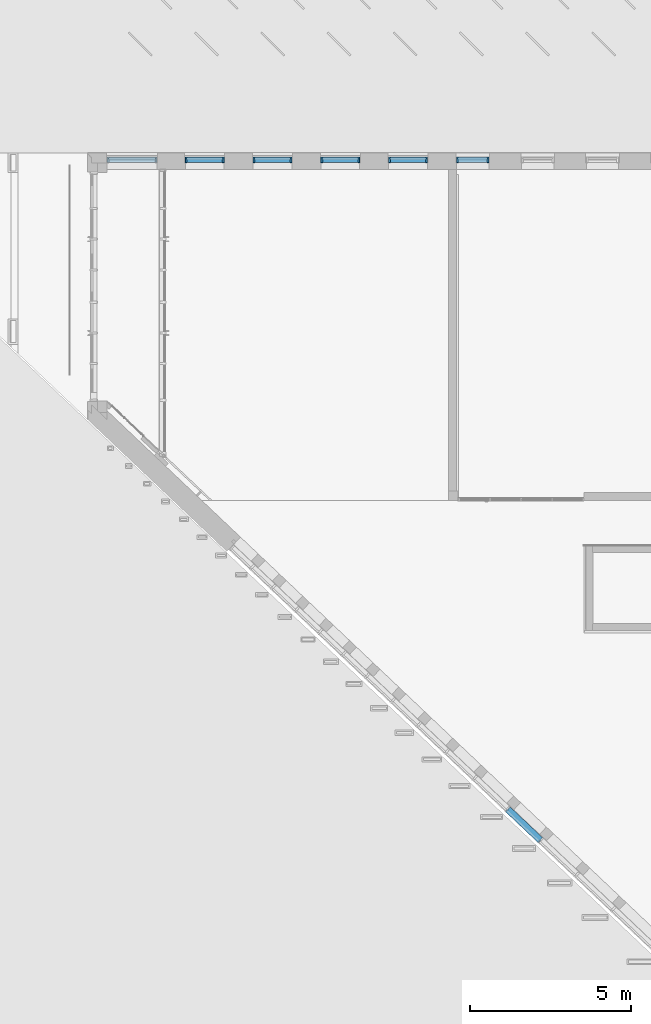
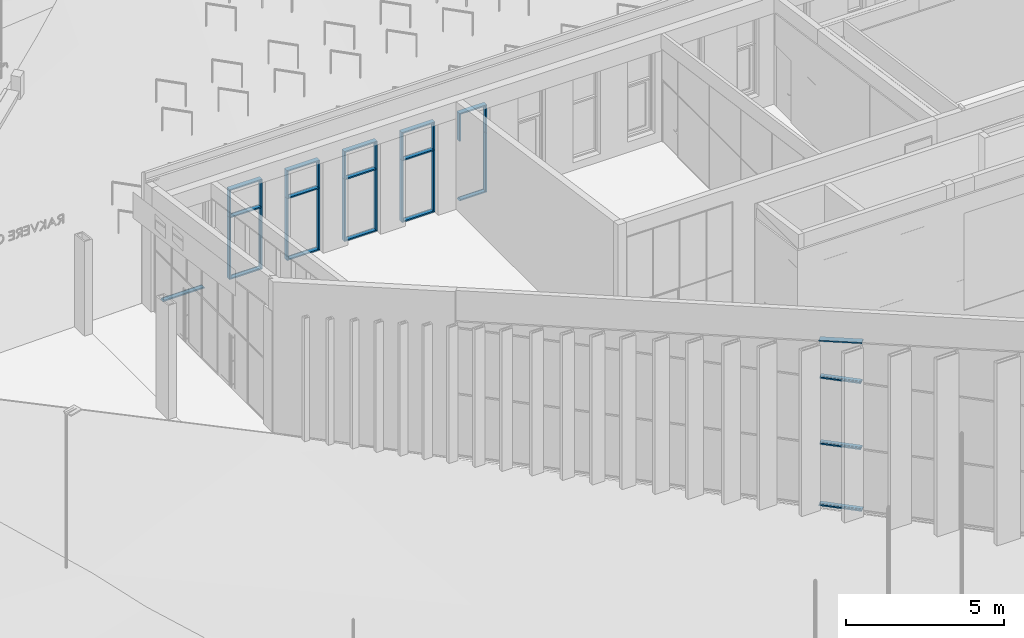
# One storey, part 13 of 246: 38 members, 7 elements without a shape of their own.
"""IFC2X3 building model written with IfcOpenShell, lengths in millimetres."""

import ifcopenshell
import ifcopenshell.guid

model = None  # the IFC model being written
_history = None  # IfcOwnerHistory: only IFC2X3 demands one
_inside = {}  # id of a spatial element -> (the spatial element, [elements in it])
_under = {}  # id of a project, library or spatial element -> (it, [spatial elements below it])
_declared = {}  # id of a project -> (the project, [libraries it declares])
_typed = {}  # id of a type object -> (the type object, [elements of that type])
_made_of = {}  # id of a material, layer set ... -> (it, [elements and type objects made of it])


def new_model(schema):
    """Start an empty IFC model of exactly this schema.

    Asked for "IFC4X3", IfcOpenShell would pick the latest addendum, in which some entities
    have other attributes; the version numbers below select the first issue.
    IFC2X3 requires an IfcOwnerHistory on every rooted entity: one is made here for all.
    """
    global model, _history
    if schema == "IFC4X3":
        model = ifcopenshell.file(schema_version=(4, 3, 0, 0))
    else:
        model = ifcopenshell.file(schema=schema)
    _inside.clear()
    _under.clear()
    _declared.clear()
    _typed.clear()
    _made_of.clear()
    _history = None
    if model.schema == "IFC2X3":
        org = make("IfcOrganization", Name="unknown")
        user = make(
            "IfcPersonAndOrganization",
            ThePerson=make("IfcPerson", FamilyName="unknown"),
            TheOrganization=org,
        )
        app = make(
            "IfcApplication",
            ApplicationDeveloper=org,
            Version="unknown",
            ApplicationFullName="unknown",
            ApplicationIdentifier="unknown",
        )
        _history = make(
            "IfcOwnerHistory",
            OwningUser=user,
            OwningApplication=app,
            ChangeAction="ADDED",
            CreationDate=0,
        )
    return model


def make(cls, **values):
    """One entity of the class cls with the attributes given. An attribute that is None is left unset."""
    return model.create_entity(
        cls, **{name: value for name, value in values.items() if value is not None}
    )


def entity(cls, *values):
    """Any entity or typed value of the class cls, its attributes in the order of the schema. None: left unset."""
    e = model.create_entity(cls)
    for i, value in enumerate(values):
        if value is not None:
            e[i] = value
    return e


def rooted(cls, **values):
    """An entity with a GlobalId (a new one), such as an element, a storey or a relation."""
    return make(cls, GlobalId=ifcopenshell.guid.new(), OwnerHistory=_history, **values)


def si_unit(unit_type, name, prefix=None):
    """IfcSIUnit, for example si_unit("LENGTHUNIT", "METRE", prefix="MILLI")."""
    return make("IfcSIUnit", UnitType=unit_type, Prefix=prefix, Name=name)


def converted_unit(unit_type, name, factor, base, dimensions=None, offset=None):
    """IfcConversionBasedUnit, such as the inch: factor (a typed value) times the base unit."""
    return make(
        "IfcConversionBasedUnit"
        if offset is None
        else "IfcConversionBasedUnitWithOffset",
        ConversionOffset=offset,
        Dimensions=None
        if dimensions is None
        else entity("IfcDimensionalExponents", *dimensions),
        UnitType=unit_type,
        Name=name,
        ConversionFactor=make(
            "IfcMeasureWithUnit", ValueComponent=factor, UnitComponent=base
        ),
    )


def derived_unit(unit_type, elements):
    """IfcDerivedUnit: a product of units, each with its exponent."""
    return make(
        "IfcDerivedUnit",
        Elements=[
            make("IfcDerivedUnitElement", Unit=unit, Exponent=power)
            for unit, power in elements
        ],
        UnitType=unit_type,
    )


def money_unit(currency):
    """IfcMonetaryUnit."""
    return make("IfcMonetaryUnit", Currency=currency)


def assignment(units):
    """IfcUnitAssignment: the units of a project."""
    return None if units is None else make("IfcUnitAssignment", Units=units)


def point(xyz):
    """IfcCartesianPoint."""
    return None if xyz is None else make("IfcCartesianPoint", Coordinates=xyz)


def direction(xyz):
    """IfcDirection."""
    return None if xyz is None else make("IfcDirection", DirectionRatios=xyz)


def frame(location, z_axis=None, x_axis=None):
    """IfcAxis2Placement3D, a coordinate frame: its origin and axes. An axis left out is left unset."""
    return make(
        "IfcAxis2Placement3D",
        Location=point(location),
        Axis=direction(z_axis),
        RefDirection=direction(x_axis),
    )


def origin_with_axes():
    """The frame at (0, 0, 0) with the z axis (0, 0, 1) and the x axis (1, 0, 0) written out."""
    return frame((0.0, 0.0, 0.0), z_axis=(0.0, 0.0, 1.0), x_axis=(1.0, 0.0, 0.0))


def place(relative_to, where):
    """IfcLocalPlacement: puts the frame where relative to a parent placement (None: the world)."""
    return make(
        "IfcLocalPlacement", PlacementRelTo=relative_to, RelativePlacement=where
    )


def context(
    kind, dimensions, precision=None, world=None, true_north=None, identifier=None
):
    """IfcGeometricRepresentationContext, for example the 3D "Model" context."""
    return make(
        "IfcGeometricRepresentationContext",
        ContextIdentifier=identifier,
        ContextType=kind,
        CoordinateSpaceDimension=dimensions,
        Precision=precision,
        WorldCoordinateSystem=world,
        TrueNorth=true_north,
    )


def subcontext(parent, identifier, kind, view, scale=None):
    """IfcGeometricRepresentationSubContext, for example "Body" below "Model"."""
    return make(
        "IfcGeometricRepresentationSubContext",
        ContextIdentifier=identifier,
        ContextType=kind,
        ParentContext=parent,
        TargetScale=scale,
        TargetView=view,
    )


def project(units=None, contexts=None):
    """IfcProject with its units and contexts."""
    return rooted(
        "IfcProject",
        Name="project",
        RepresentationContexts=contexts,
        UnitsInContext=assignment(units),
    )


def spatial(cls, under=None, at=None, **own):
    """A site, building, storey or space (cls), placed at a placement, below another one or the project."""
    s = rooted(cls, ObjectPlacement=at, **own)
    if under is not None:
        _under.setdefault(under.id(), (under, []))[1].append(s)
    return s


def faces_of(points, faces, orient=None, outer=None):
    """IfcFace entities. A face is a list of loops; a loop is a list of indices into points, from 0.

    orient and outer hold one flag for each loop. By default every Orientation is true, the
    first loop of a face is its IfcFaceOuterBound and the others are IfcFaceBound.
    """
    made = []
    for i, loops in enumerate(faces):
        bounds = []
        for j, loop in enumerate(loops):
            is_outer = j == 0 if outer is None else outer[i][j]
            bounds.append(
                make(
                    "IfcFaceOuterBound" if is_outer else "IfcFaceBound",
                    Bound=make("IfcPolyLoop", Polygon=[points[k] for k in loop]),
                    Orientation=True if orient is None else orient[i][j],
                )
            )
        made.append(make("IfcFace", Bounds=bounds))
    return made


def faceted_brep(points, faces, orient=None, outer=None, voids=None):
    """IfcFacetedBrep: a solid bounded by flat faces; with voids (closed shells), ...WithVoids."""
    shared = [point(p) for p in points]
    hull = make("IfcClosedShell", CfsFaces=faces_of(shared, faces, orient, outer))
    if voids is None:
        return make("IfcFacetedBrep", Outer=hull)
    return make(
        "IfcFacetedBrepWithVoids",
        Outer=hull,
        Voids=[
            make(cls, CfsFaces=faces_of(shared, fs, o, b)) for cls, fs, o, b in voids
        ],
    )


def shape(context_of_items, identifier, shape_type, items):
    """IfcShapeRepresentation: the items that make up one representation, for example the "Body"."""
    return make(
        "IfcShapeRepresentation",
        ContextOfItems=context_of_items,
        RepresentationIdentifier=identifier,
        RepresentationType=shape_type,
        Items=items,
    )


def source(mapping_origin, context_of_items, identifier, shape_type, items):
    """IfcRepresentationMap: a shape defined once, which mapped items show again and again."""
    return make(
        "IfcRepresentationMap",
        MappingOrigin=mapping_origin,
        MappedRepresentation=shape(context_of_items, identifier, shape_type, items),
    )


def transform(
    local_origin,
    x_axis=None,
    y_axis=None,
    z_axis=None,
    scale=None,
    scale2=None,
    scale3=None,
    uniform=True,
):
    """IfcCartesianTransformationOperator3D, or its non-uniform kind. x_axis, y_axis, z_axis: its Axis1, 2, 3."""
    if uniform:
        return make(
            "IfcCartesianTransformationOperator3D",
            Axis1=direction(x_axis),
            Axis2=direction(y_axis),
            LocalOrigin=point(local_origin),
            Scale=scale,
            Axis3=direction(z_axis),
        )
    return make(
        "IfcCartesianTransformationOperator3DnonUniform",
        Axis1=direction(x_axis),
        Axis2=direction(y_axis),
        LocalOrigin=point(local_origin),
        Scale=scale,
        Axis3=direction(z_axis),
        Scale2=scale2,
        Scale3=scale3,
    )


def mapped(mapping_source, mapping_target):
    """IfcMappedItem: shows the shape of a source again, moved by a transform."""
    return make(
        "IfcMappedItem", MappingSource=mapping_source, MappingTarget=mapping_target
    )


def material(Name=None, Category=None):
    """IfcMaterial."""
    return make("IfcMaterial", Name=Name, Category=Category)


def made_of(thing, what):
    """Note that an element or type object is made of a material, layer set ...; save() writes the relation."""
    if what is not None:
        _made_of.setdefault(what.id(), (what, []))[1].append(thing)
    return thing


def type_object(cls, material=None, **own):
    """A type object (cls), such as IfcWallType, which elements share."""
    return made_of(rooted(cls, **own), material)


def element(
    cls,
    number,
    at=None,
    inside=None,
    cuts=None,
    type_object=None,
    material=None,
    context=None,
    identifier="Body",
    shape_type=None,
    held_by="IfcProductDefinitionShape",
    body=None,
    shapes=None,
    **own,
):
    """One element of the class cls, such as IfcWall. Its Tag is "e" and its number.

    at: its placement. inside: the storey or other place that contains it. cuts: it is an
    opening in that element (IfcRelVoidsElement). A single representation is given by context,
    identifier, shape_type and body (its items); several are given by shapes. held_by: the class
    of the entity that holds the representations. save() writes the other relations.
    """
    e = rooted(cls, Tag="e%d" % number, ObjectPlacement=at, **own)
    if body is not None:
        shapes = [shape(context, identifier, shape_type, body)]
    if shapes is not None:
        e.Representation = make(held_by, Representations=shapes)
    if inside is not None:
        _inside.setdefault(inside.id(), (inside, []))[1].append(e)
    if cuts is not None:
        rooted(
            "IfcRelVoidsElement", RelatingBuildingElement=cuts, RelatedOpeningElement=e
        )
    if type_object is not None:
        _typed.setdefault(type_object.id(), (type_object, []))[1].append(e)
    return made_of(e, material)


def aggregate(whole, parts):
    """IfcRelAggregates: a whole, such as a stair, and the parts it consists of."""
    return rooted("IfcRelAggregates", RelatingObject=whole, RelatedObjects=parts)


def save(model, path):
    """Write the relations noted so far, then the file.

    IfcRelAggregates (storeys below a building ...), IfcRelContainedInSpatialStructure (elements
    in a storey), IfcRelDefinesByType, IfcRelAssociatesMaterial and IfcRelDeclares: one each for
    every whole, place, type object, material and project.
    """
    for whole, parts in _under.values():
        aggregate(whole, parts)
    for where, things in _inside.values():
        rooted(
            "IfcRelContainedInSpatialStructure",
            RelatedElements=things,
            RelatingStructure=where,
        )
    for kind, things in _typed.values():
        rooted("IfcRelDefinesByType", RelatedObjects=things, RelatingType=kind)
    for what, things in _made_of.values():
        rooted("IfcRelAssociatesMaterial", RelatedObjects=things, RelatingMaterial=what)
    for by, libraries in _declared.values():
        rooted("IfcRelDeclares", RelatingContext=by, RelatedDefinitions=libraries)
    model.write(path)


model = new_model("IFC2X3")

# Units and contexts
model_context = context("Model", 3, precision=0.01, world=origin_with_axes(), true_north=direction((0.0, 1.0)))
body_context = subcontext(model_context, "Body", "Model", "MODEL_VIEW")
ifc_project = project(units=[si_unit("LENGTHUNIT", "METRE", prefix="MILLI"), si_unit("AREAUNIT", "SQUARE_METRE"), si_unit("VOLUMEUNIT", "CUBIC_METRE"), converted_unit("PLANEANGLEUNIT", "DEGREE", entity("IfcPlaneAngleMeasure", 0.0174532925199), si_unit("PLANEANGLEUNIT", "RADIAN"), dimensions=[0, 0, 0, 0, 0, 0, 0]), si_unit("SOLIDANGLEUNIT", "STERADIAN"), money_unit("EUR"), converted_unit("TIMEUNIT", "Year", entity("IfcTimeMeasure", 31556926.0), si_unit("TIMEUNIT", "SECOND"), dimensions=[0, 0, 1, 0, 0, 0, 0]), si_unit("MASSUNIT", "GRAM", prefix="KILO"), si_unit("THERMODYNAMICTEMPERATUREUNIT", "DEGREE_CELSIUS"), si_unit("LUMINOUSINTENSITYUNIT", "LUMEN"), si_unit("ENERGYUNIT", "JOULE", prefix="MEGA"), derived_unit("THERMALCONDUCTANCEUNIT", [(si_unit("POWERUNIT", "WATT"), 1), (si_unit("LENGTHUNIT", "METRE"), -1), (si_unit("THERMODYNAMICTEMPERATUREUNIT", "KELVIN"), -1)]), derived_unit("SPECIFICHEATCAPACITYUNIT", [(si_unit("ENERGYUNIT", "JOULE"), 1), (si_unit("MASSUNIT", "GRAM", prefix="KILO"), -1), (si_unit("THERMODYNAMICTEMPERATUREUNIT", "KELVIN"), -1)]), derived_unit("MASSDENSITYUNIT", [(si_unit("MASSUNIT", "GRAM", prefix="KILO"), 1), (si_unit("VOLUMEUNIT", "CUBIC_METRE"), -1)])], contexts=[model_context])

# Site, building, storey
site_placement = place(None, origin_with_axes())
site = spatial("IfcSite", under=ifc_project, at=site_placement, Name="L.Koidula tn 11b", CompositionType="ELEMENT")
building_placement = place(site_placement, origin_with_axes())
building = spatial("IfcBuilding", under=site, at=building_placement, Name="Rakvere Riigigümnaasium", CompositionType="ELEMENT")
storey_placement = place(building_placement, origin_with_axes())
storey = spatial("IfcBuildingStorey", under=building, at=storey_placement, Name="1.korrus 0,00", CompositionType="ELEMENT", Elevation=0.0)

# Curtain wall, member
curtain_wall_type = type_object("IfcCurtainWallType", Name="Curtain Wall Type", PredefinedType="NOTDEFINED")
curtain_wall_1_placement = place(storey_placement, frame((17749.5354722, 71934.4519938, -9.30410403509e-05), z_axis=(0.0, 0.0, 1.0), x_axis=(1.0, 0.0, 0.0)))
curtain_wall_1 = element("IfcCurtainWall", 1, at=curtain_wall_1_placement, inside=storey, type_object=curtain_wall_type, Name="KLF-08-02")
ifc_material = material(Name="Alumiiniumprofiil (RAL 7021)")
member_type_1 = type_object("IfcMemberType", Name="Boundary Frame 50 x 170", PredefinedType="MULLION")
shared_shape_1 = source(origin_with_axes(), body_context, "Body", "Brep", [
    faceted_brep([(-37.0, -26.0, 2400.00000019), (-50.0, -26.0, 2400.00000019), (-50.0, -124.0, 2400.00000019), (0.0, -124.0, 2400.00000019), (0.0, 46.0, 2400.00000019), (-50.0, 46.0, 2400.00000019), (-50.0, 26.0, 2400.00000019), (-37.0, 26.0, 2400.00000019), (-37.0, -26.0, 37.0), (-50.0, -26.0, 50.0), (-50.0, -124.0, 50.0), (0.0, -124.0, 0.0), (0.0, 46.0, 0.0), (-50.0, 46.0, 50.0), (-50.0, 26.0, 50.0), (-37.0, 26.0, 37.0)], [[[0, 1, 2, 3, 4, 5, 6, 7]], [[0, 8, 9, 1]], [[9, 10, 2, 1]], [[2, 10, 11, 3]], [[3, 11, 12, 4]], [[4, 12, 13, 5]], [[6, 5, 13, 14]], [[14, 15, 7, 6]], [[7, 15, 8, 0]], [[8, 15, 14, 13, 12, 11, 10, 9]]]),
])
member_1_placement = place(curtain_wall_1_placement, frame((600.000046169, 0.0, 0.0), z_axis=(-6.14461050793e-10, 0.0, 1.0), x_axis=(-1.0, 0.0, -6.14461050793e-10)))
member_1 = element("IfcMember", 2, at=member_1_placement, type_object=member_type_1, material=ifc_material, Name="KLF-08-42-Profiilid", ObjectType="MULLION", context=body_context, shape_type="MappedRepresentation", body=[
    mapped(shared_shape_1, transform((0.0, 0.0, 0.0), x_axis=(-1.0, 0.0, -6.14461050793e-10), y_axis=(0.0, -1.0, 0.0), z_axis=(-6.14461050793e-10, 0.0, 1.0))),
])

curtain_wall_2_placement = place(storey_placement, frame((19849.5354722, 71934.4519938, -9.30410403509e-05), z_axis=(0.0, 0.0, 1.0), x_axis=(1.0, 0.0, 0.0)))
curtain_wall_2 = element("IfcCurtainWall", 3, at=curtain_wall_2_placement, inside=storey, type_object=curtain_wall_type, Name="KLF-08-02")
member_2_placement = place(curtain_wall_2_placement, frame((600.000046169, 0.0, 0.0), z_axis=(-6.14461050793e-10, 0.0, 1.0), x_axis=(-1.0, 0.0, -6.14461050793e-10)))
member_2 = element("IfcMember", 4, at=member_2_placement, type_object=member_type_1, material=ifc_material, Name="KLF-08-42-Profiilid", ObjectType="MULLION", context=body_context, shape_type="MappedRepresentation", body=[
    mapped(shared_shape_1, transform((0.0, 0.0, 0.0), x_axis=(-1.0, 0.0, -6.14461050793e-10), y_axis=(0.0, -1.0, 0.0), z_axis=(-6.14461050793e-10, 0.0, 1.0))),
])

curtain_wall_3_placement = place(storey_placement, frame((21949.5354722, 71934.4519938, -9.30410403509e-05), z_axis=(0.0, 0.0, 1.0), x_axis=(1.0, 0.0, 0.0)))
curtain_wall_3 = element("IfcCurtainWall", 5, at=curtain_wall_3_placement, inside=storey, type_object=curtain_wall_type, Name="KLF-08-02")
member_3_placement = place(curtain_wall_3_placement, frame((600.000046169, 0.0, 0.0), z_axis=(-6.14461050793e-10, 0.0, 1.0), x_axis=(-1.0, 0.0, -6.14461050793e-10)))
member_3 = element("IfcMember", 6, at=member_3_placement, type_object=member_type_1, material=ifc_material, Name="KLF-08-42-Profiilid", ObjectType="MULLION", context=body_context, shape_type="MappedRepresentation", body=[
    mapped(shared_shape_1, transform((0.0, 0.0, 0.0), x_axis=(-1.0, 0.0, -6.14461050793e-10), y_axis=(0.0, -1.0, 0.0), z_axis=(-6.14461050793e-10, 0.0, 1.0))),
])

curtain_wall_4_placement = place(storey_placement, frame((24049.5354722, 71934.4519938, -9.30410403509e-05), z_axis=(0.0, 0.0, 1.0), x_axis=(1.0, 0.0, 0.0)))
curtain_wall_4 = element("IfcCurtainWall", 7, at=curtain_wall_4_placement, inside=storey, type_object=curtain_wall_type, Name="KLF-08-02")
member_4_placement = place(curtain_wall_4_placement, frame((600.000046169, 0.0, 0.0), z_axis=(-6.14461050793e-10, 0.0, 1.0), x_axis=(-1.0, 0.0, -6.14461050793e-10)))
member_4 = element("IfcMember", 8, at=member_4_placement, type_object=member_type_1, material=ifc_material, Name="KLF-08-42-Profiilid", ObjectType="MULLION", context=body_context, shape_type="MappedRepresentation", body=[
    mapped(shared_shape_1, transform((0.0, 0.0, 0.0), x_axis=(-1.0, 0.0, -6.14461050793e-10), y_axis=(0.0, -1.0, 0.0), z_axis=(-6.14461050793e-10, 0.0, 1.0))),
])

# Member
shared_shape_2 = source(origin_with_axes(), body_context, "Body", "Brep", [
    faceted_brep([(37.0, -26.0, 2400.0), (37.0, 26.0, 2400.0), (50.0, 26.0, 2400.0), (50.0, 46.0, 2400.0), (0.0, 46.0, 2400.0), (0.0, -124.0, 2400.0), (50.0, -124.0, 2400.0), (50.0, -26.0, 2400.0), (37.0, -26.0, 37.0), (37.0, 26.0, 37.0), (50.0, 26.0, 50.0), (50.0, 46.0, 50.0), (0.0, 46.0, 0.0), (0.0, -124.0, 0.0), (50.0, -124.0, 50.0), (50.0, -26.0, 50.0)], [[[0, 1, 2, 3, 4, 5, 6, 7]], [[1, 0, 8, 9]], [[10, 2, 1, 9]], [[2, 10, 11, 3]], [[4, 3, 11, 12]], [[5, 4, 12, 13]], [[6, 5, 13, 14]], [[15, 7, 6, 14]], [[0, 7, 15, 8]], [[8, 15, 14, 13, 12, 11, 10, 9]]]),
])
member_5_placement = place(curtain_wall_1_placement, frame((-600.000044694, 0.0, 0.0), z_axis=(0.0, 0.0, 1.0), x_axis=(-1.0, 0.0, 0.0)))
member_5 = element("IfcMember", 9, at=member_5_placement, type_object=member_type_1, material=ifc_material, Name="KLF-08-46-Profiilid", ObjectType="MULLION", context=body_context, shape_type="MappedRepresentation", body=[
    mapped(shared_shape_2, transform((0.0, 0.0, 0.0), x_axis=(-1.0, 0.0, 0.0), y_axis=(0.0, -1.0, 0.0), z_axis=(0.0, 0.0, 1.0))),
])

member_6_placement = place(curtain_wall_2_placement, frame((-600.000044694, 0.0, 0.0), z_axis=(0.0, 0.0, 1.0), x_axis=(-1.0, 0.0, 0.0)))
member_6 = element("IfcMember", 10, at=member_6_placement, type_object=member_type_1, material=ifc_material, Name="KLF-08-46-Profiilid", ObjectType="MULLION", context=body_context, shape_type="MappedRepresentation", body=[
    mapped(shared_shape_2, transform((0.0, 0.0, 0.0), x_axis=(-1.0, 0.0, 0.0), y_axis=(0.0, -1.0, 0.0), z_axis=(0.0, 0.0, 1.0))),
])

member_7_placement = place(curtain_wall_3_placement, frame((-600.000044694, 0.0, 0.0), z_axis=(0.0, 0.0, 1.0), x_axis=(-1.0, 0.0, 0.0)))
member_7 = element("IfcMember", 11, at=member_7_placement, type_object=member_type_1, material=ifc_material, Name="KLF-08-46-Profiilid", ObjectType="MULLION", context=body_context, shape_type="MappedRepresentation", body=[
    mapped(shared_shape_2, transform((0.0, 0.0, 0.0), x_axis=(-1.0, 0.0, 0.0), y_axis=(0.0, -1.0, 0.0), z_axis=(0.0, 0.0, 1.0))),
])

member_8_placement = place(curtain_wall_4_placement, frame((-600.000044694, 0.0, 0.0), z_axis=(0.0, 0.0, 1.0), x_axis=(-1.0, 0.0, 0.0)))
member_8 = element("IfcMember", 12, at=member_8_placement, type_object=member_type_1, material=ifc_material, Name="KLF-08-46-Profiilid", ObjectType="MULLION", context=body_context, shape_type="MappedRepresentation", body=[
    mapped(shared_shape_2, transform((0.0, 0.0, 0.0), x_axis=(-1.0, 0.0, 0.0), y_axis=(0.0, -1.0, 0.0), z_axis=(0.0, 0.0, 1.0))),
])

shared_shape_3 = source(origin_with_axes(), body_context, "Body", "Brep", [
    faceted_brep([(-37.0, -26.0, 1042.99989822), (-50.0, -26.0, 1029.99989822), (-50.0, -124.0, 1029.99989822), (0.0, -124.0, 1079.99989822), (0.0, 46.0, 1079.99989822), (-50.0, 46.0, 1029.99989822), (-50.0, 26.0, 1029.99989822), (-37.0, 26.0, 1042.99989822), (-37.0, -26.0, -2.46072051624e-08), (-50.0, -26.0, -2.46072051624e-08), (-50.0, -124.0, -2.46072051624e-08), (0.0, -124.0, -2.46072051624e-08), (0.0, 46.0, -2.46072051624e-08), (-50.0, 46.0, -2.46072051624e-08), (-50.0, 26.0, -2.46072051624e-08), (-37.0, 26.0, -2.46072051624e-08)], [[[0, 1, 2, 3, 4, 5, 6, 7]], [[0, 8, 9, 1]], [[9, 10, 2, 1]], [[10, 11, 3, 2]], [[11, 12, 4, 3]], [[12, 13, 5, 4]], [[6, 5, 13, 14]], [[14, 15, 7, 6]], [[7, 15, 8, 0]], [[8, 15, 14, 13, 12, 11, 10, 9]]]),
])
member_9_placement = place(curtain_wall_1_placement, frame((600.000044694, 0.0, 2400.00009304), z_axis=(0.0, 0.0, 1.0), x_axis=(-1.0, 0.0, 0.0)))
member_9 = element("IfcMember", 13, at=member_9_placement, type_object=member_type_1, material=ifc_material, Name="KLF-08-43-Profiilid", ObjectType="MULLION", context=body_context, shape_type="MappedRepresentation", body=[
    mapped(shared_shape_3, transform((0.0, 0.0, 0.0), x_axis=(-1.0, 0.0, 0.0), y_axis=(0.0, -1.0, 0.0), z_axis=(0.0, 0.0, 1.0))),
])

member_10_placement = place(curtain_wall_2_placement, frame((600.000044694, 0.0, 2400.00009304), z_axis=(0.0, 0.0, 1.0), x_axis=(-1.0, 0.0, 0.0)))
member_10 = element("IfcMember", 14, at=member_10_placement, type_object=member_type_1, material=ifc_material, Name="KLF-08-43-Profiilid", ObjectType="MULLION", context=body_context, shape_type="MappedRepresentation", body=[
    mapped(shared_shape_3, transform((0.0, 0.0, 0.0), x_axis=(-1.0, 0.0, 0.0), y_axis=(0.0, -1.0, 0.0), z_axis=(0.0, 0.0, 1.0))),
])

member_11_placement = place(curtain_wall_3_placement, frame((600.000044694, 0.0, 2400.00009304), z_axis=(0.0, 0.0, 1.0), x_axis=(-1.0, 0.0, 0.0)))
member_11 = element("IfcMember", 15, at=member_11_placement, type_object=member_type_1, material=ifc_material, Name="KLF-08-43-Profiilid", ObjectType="MULLION", context=body_context, shape_type="MappedRepresentation", body=[
    mapped(shared_shape_3, transform((0.0, 0.0, 0.0), x_axis=(-1.0, 0.0, 0.0), y_axis=(0.0, -1.0, 0.0), z_axis=(0.0, 0.0, 1.0))),
])

member_12_placement = place(curtain_wall_4_placement, frame((600.000044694, 0.0, 2400.00009304), z_axis=(0.0, 0.0, 1.0), x_axis=(-1.0, 0.0, 0.0)))
member_12 = element("IfcMember", 16, at=member_12_placement, type_object=member_type_1, material=ifc_material, Name="KLF-08-43-Profiilid", ObjectType="MULLION", context=body_context, shape_type="MappedRepresentation", body=[
    mapped(shared_shape_3, transform((0.0, 0.0, 0.0), x_axis=(-1.0, 0.0, 0.0), y_axis=(0.0, -1.0, 0.0), z_axis=(0.0, 0.0, 1.0))),
])

# Curtain wall, member
curtain_wall_5_placement = place(storey_placement, frame((26049.5354659, 71934.4519938, 100.0), z_axis=(0.0, 0.0, 1.0), x_axis=(1.0, 0.0, 0.0)))
curtain_wall_5 = element("IfcCurtainWall", 17, at=curtain_wall_5_placement, inside=storey, type_object=curtain_wall_type, Name="KLF-08-03")
member_13_placement = place(curtain_wall_5_placement, frame((500.000038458, 0.0, 2300.00007713), z_axis=(0.0, 0.0, 1.0), x_axis=(-1.0, 0.0, 0.0)))
member_13 = element("IfcMember", 18, at=member_13_placement, type_object=member_type_1, material=ifc_material, Name="KLF-08-44-Profiilid", ObjectType="MULLION", context=body_context, shape_type="MappedRepresentation", body=[
    mapped(shared_shape_3, transform((0.0, 0.0, 0.0), x_axis=(-1.0, 0.0, 0.0), y_axis=(0.0, -1.0, 0.0), z_axis=(0.0, 0.0, 1.0))),
])

# Member
shared_shape_4 = source(origin_with_axes(), body_context, "Body", "Brep", [
    faceted_brep([(37.0, -26.0, 1043.00003141), (37.0, 26.0, 1043.00003141), (50.0, 26.0, 1030.00003141), (50.0, 46.0, 1030.00003141), (0.0, 46.0, 1080.00003141), (0.0, -124.0, 1080.00003141), (50.0, -124.0, 1030.00003141), (50.0, -26.0, 1030.00003141), (37.0, -26.0, 0.0), (37.0, 26.0, 0.0), (50.0, 26.0, 0.0), (50.0, 46.0, 0.0), (0.0, 46.0, 0.0), (0.0, -124.0, 0.0), (50.0, -124.0, 0.0), (50.0, -26.0, 0.0)], [[[0, 1, 2, 3, 4, 5, 6, 7]], [[1, 0, 8, 9]], [[10, 2, 1, 9]], [[2, 10, 11, 3]], [[12, 4, 3, 11]], [[13, 5, 4, 12]], [[14, 6, 5, 13]], [[15, 7, 6, 14]], [[0, 7, 15, 8]], [[8, 15, 14, 13, 12, 11, 10, 9]]]),
])
member_14_placement = place(curtain_wall_1_placement, frame((-600.000044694, 0.0, 2400.00009304), z_axis=(0.0, 0.0, 1.0), x_axis=(-1.0, 0.0, 0.0)))
member_14 = element("IfcMember", 19, at=member_14_placement, type_object=member_type_1, material=ifc_material, Name="KLF-08-45-Profiilid", ObjectType="MULLION", context=body_context, shape_type="MappedRepresentation", body=[
    mapped(shared_shape_4, transform((0.0, 0.0, 0.0), x_axis=(-1.0, 0.0, 0.0), y_axis=(0.0, -1.0, 0.0), z_axis=(0.0, 0.0, 1.0))),
])

member_15_placement = place(curtain_wall_2_placement, frame((-600.000044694, 0.0, 2400.00009304), z_axis=(0.0, 0.0, 1.0), x_axis=(-1.0, 0.0, 0.0)))
member_15 = element("IfcMember", 20, at=member_15_placement, type_object=member_type_1, material=ifc_material, Name="KLF-08-45-Profiilid", ObjectType="MULLION", context=body_context, shape_type="MappedRepresentation", body=[
    mapped(shared_shape_4, transform((0.0, 0.0, 0.0), x_axis=(-1.0, 0.0, 0.0), y_axis=(0.0, -1.0, 0.0), z_axis=(0.0, 0.0, 1.0))),
])

member_16_placement = place(curtain_wall_3_placement, frame((-600.000044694, 0.0, 2400.00009304), z_axis=(0.0, 0.0, 1.0), x_axis=(-1.0, 0.0, 0.0)))
member_16 = element("IfcMember", 21, at=member_16_placement, type_object=member_type_1, material=ifc_material, Name="KLF-08-45-Profiilid", ObjectType="MULLION", context=body_context, shape_type="MappedRepresentation", body=[
    mapped(shared_shape_4, transform((0.0, 0.0, 0.0), x_axis=(-1.0, 0.0, 0.0), y_axis=(0.0, -1.0, 0.0), z_axis=(0.0, 0.0, 1.0))),
])

member_17_placement = place(curtain_wall_4_placement, frame((-600.000044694, 0.0, 2400.00009304), z_axis=(0.0, 0.0, 1.0), x_axis=(-1.0, 0.0, 0.0)))
member_17 = element("IfcMember", 22, at=member_17_placement, type_object=member_type_1, material=ifc_material, Name="KLF-08-45-Profiilid", ObjectType="MULLION", context=body_context, shape_type="MappedRepresentation", body=[
    mapped(shared_shape_4, transform((0.0, 0.0, 0.0), x_axis=(-1.0, 0.0, 0.0), y_axis=(0.0, -1.0, 0.0), z_axis=(0.0, 0.0, 1.0))),
])

member_18_placement = place(curtain_wall_5_placement, frame((-500.000038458, 0.0, 2300.00007713), z_axis=(0.0, 0.0, 1.0), x_axis=(-1.0, 0.0, 0.0)))
member_18 = element("IfcMember", 23, at=member_18_placement, type_object=member_type_1, material=ifc_material, Name="KLF-08-46-Profiilid", ObjectType="MULLION", context=body_context, shape_type="MappedRepresentation", body=[
    mapped(shared_shape_4, transform((0.0, 0.0, 0.0), x_axis=(-1.0, 0.0, 0.0), y_axis=(0.0, -1.0, 0.0), z_axis=(0.0, 0.0, 1.0))),
])

shared_shape_5 = source(origin_with_axes(), body_context, "Body", "Brep", [
    faceted_brep([(-37.0, -26.0, 1163.00008939), (-50.0, -26.0, 1150.00008939), (-50.0, -124.0, 1150.00008939), (0.0, -124.0, 1200.00008939), (0.0, 46.0, 1200.00008939), (-50.0, 46.0, 1150.00008939), (-50.0, 26.0, 1150.00008939), (-37.0, 26.0, 1163.00008939), (-37.0, -26.0, 37.0), (-50.0, -26.0, 50.0), (-50.0, -124.0, 50.0), (0.0, -124.0, 0.0), (0.0, 46.0, 0.0), (-50.0, 46.0, 50.0), (-50.0, 26.0, 50.0), (-37.0, 26.0, 37.0)], [[[0, 1, 2, 3, 4, 5, 6, 7]], [[0, 8, 9, 1]], [[9, 10, 2, 1]], [[2, 10, 11, 3]], [[3, 11, 12, 4]], [[4, 12, 13, 5]], [[6, 5, 13, 14]], [[14, 15, 7, 6]], [[7, 15, 8, 0]], [[8, 15, 14, 13, 12, 11, 10, 9]]]),
])
member_19_placement = place(curtain_wall_1_placement, frame((600.000044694, 0.0, 3480.00010763), z_axis=(-1.0, 0.0, 0.0), x_axis=(0.0, 0.0, -1.0)))
member_19 = element("IfcMember", 24, at=member_19_placement, type_object=member_type_1, material=ifc_material, Name="KLF-08-44-Profiilid", ObjectType="MULLION", context=body_context, shape_type="MappedRepresentation", body=[
    mapped(shared_shape_5, transform((0.0, 0.0, 0.0), x_axis=(-1.0, 0.0, 0.0), y_axis=(0.0, -1.0, 0.0), z_axis=(0.0, 0.0, 1.0))),
])

member_20_placement = place(curtain_wall_1_placement, frame((-600.000044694, 0.0, 0.0), z_axis=(1.0, 0.0, 0.0), x_axis=(0.0, 0.0, 1.0)))
member_20 = element("IfcMember", 25, at=member_20_placement, type_object=member_type_1, material=ifc_material, Name="KLF-08-41-Profiilid", ObjectType="MULLION", context=body_context, shape_type="MappedRepresentation", body=[
    mapped(shared_shape_5, transform((0.0, 0.0, 0.0), x_axis=(-1.0, 0.0, 0.0), y_axis=(0.0, -1.0, 0.0), z_axis=(0.0, 0.0, 1.0))),
])

member_21_placement = place(curtain_wall_2_placement, frame((600.000044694, 0.0, 3480.00010763), z_axis=(-1.0, 0.0, 0.0), x_axis=(0.0, 0.0, -1.0)))
member_21 = element("IfcMember", 26, at=member_21_placement, type_object=member_type_1, material=ifc_material, Name="KLF-08-44-Profiilid", ObjectType="MULLION", context=body_context, shape_type="MappedRepresentation", body=[
    mapped(shared_shape_5, transform((0.0, 0.0, 0.0), x_axis=(-1.0, 0.0, 0.0), y_axis=(0.0, -1.0, 0.0), z_axis=(0.0, 0.0, 1.0))),
])

member_22_placement = place(curtain_wall_2_placement, frame((-600.000044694, 0.0, 0.0), z_axis=(1.0, 0.0, 0.0), x_axis=(0.0, 0.0, 1.0)))
member_22 = element("IfcMember", 27, at=member_22_placement, type_object=member_type_1, material=ifc_material, Name="KLF-08-41-Profiilid", ObjectType="MULLION", context=body_context, shape_type="MappedRepresentation", body=[
    mapped(shared_shape_5, transform((0.0, 0.0, 0.0), x_axis=(-1.0, 0.0, 0.0), y_axis=(0.0, -1.0, 0.0), z_axis=(0.0, 0.0, 1.0))),
])

member_23_placement = place(curtain_wall_3_placement, frame((600.000044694, 0.0, 3480.00010763), z_axis=(-1.0, 0.0, 0.0), x_axis=(0.0, 0.0, -1.0)))
member_23 = element("IfcMember", 28, at=member_23_placement, type_object=member_type_1, material=ifc_material, Name="KLF-08-44-Profiilid", ObjectType="MULLION", context=body_context, shape_type="MappedRepresentation", body=[
    mapped(shared_shape_5, transform((0.0, 0.0, 0.0), x_axis=(-1.0, 0.0, 0.0), y_axis=(0.0, -1.0, 0.0), z_axis=(0.0, 0.0, 1.0))),
])

member_24_placement = place(curtain_wall_3_placement, frame((-600.000044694, 0.0, 0.0), z_axis=(1.0, 0.0, 0.0), x_axis=(0.0, 0.0, 1.0)))
member_24 = element("IfcMember", 29, at=member_24_placement, type_object=member_type_1, material=ifc_material, Name="KLF-08-41-Profiilid", ObjectType="MULLION", context=body_context, shape_type="MappedRepresentation", body=[
    mapped(shared_shape_5, transform((0.0, 0.0, 0.0), x_axis=(-1.0, 0.0, 0.0), y_axis=(0.0, -1.0, 0.0), z_axis=(0.0, 0.0, 1.0))),
])

member_25_placement = place(curtain_wall_4_placement, frame((600.000044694, 0.0, 3480.00010763), z_axis=(-1.0, 0.0, 0.0), x_axis=(0.0, 0.0, -1.0)))
member_25 = element("IfcMember", 30, at=member_25_placement, type_object=member_type_1, material=ifc_material, Name="KLF-08-44-Profiilid", ObjectType="MULLION", context=body_context, shape_type="MappedRepresentation", body=[
    mapped(shared_shape_5, transform((0.0, 0.0, 0.0), x_axis=(-1.0, 0.0, 0.0), y_axis=(0.0, -1.0, 0.0), z_axis=(0.0, 0.0, 1.0))),
])

member_26_placement = place(curtain_wall_4_placement, frame((-600.000044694, 0.0, 0.0), z_axis=(1.0, 0.0, 0.0), x_axis=(0.0, 0.0, 1.0)))
member_26 = element("IfcMember", 31, at=member_26_placement, type_object=member_type_1, material=ifc_material, Name="KLF-08-41-Profiilid", ObjectType="MULLION", context=body_context, shape_type="MappedRepresentation", body=[
    mapped(shared_shape_5, transform((0.0, 0.0, 0.0), x_axis=(-1.0, 0.0, 0.0), y_axis=(0.0, -1.0, 0.0), z_axis=(0.0, 0.0, 1.0))),
])

shared_shape_6 = source(origin_with_axes(), body_context, "Body", "Brep", [
    faceted_brep([(-37.0, -26.0, 963.000201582), (-50.0, -26.0, 950.00020105), (-50.0, -124.0, 950.00020105), (0.0, -124.0, 1000.0002031), (0.0, 46.0, 1000.0002031), (-50.0, 46.0, 950.00020105), (-50.0, 26.0, 950.00020105), (-37.0, 26.0, 963.000201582), (-37.0, -26.0, 37.0), (-50.0, -26.0, 50.0), (-50.0, -124.0, 50.0), (0.0, -124.0, 0.0), (0.0, 46.0, 0.0), (-50.0, 46.0, 50.0), (-50.0, 26.0, 50.0), (-37.0, 26.0, 37.0)], [[[0, 1, 2, 3, 4, 5, 6, 7]], [[0, 8, 9, 1]], [[9, 10, 2, 1]], [[2, 10, 11, 3]], [[3, 11, 12, 4]], [[4, 12, 13, 5]], [[6, 5, 13, 14]], [[14, 15, 7, 6]], [[7, 15, 8, 0]], [[8, 15, 14, 13, 12, 11, 10, 9]]]),
])
member_27_placement = place(curtain_wall_5_placement, frame((500.000038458, 0.0, 3380.00002747), z_axis=(-1.0, 0.0, 0.0), x_axis=(0.0, 0.0, -1.0)))
member_27 = element("IfcMember", 32, at=member_27_placement, type_object=member_type_1, material=ifc_material, Name="KLF-08-45-Profiilid", ObjectType="MULLION", context=body_context, shape_type="MappedRepresentation", body=[
    mapped(shared_shape_6, transform((0.0, 0.0, 0.0), x_axis=(-1.0, 0.0, 0.0), y_axis=(0.0, -1.0, 0.0), z_axis=(0.0, 0.0, 1.0))),
])

member_28_placement = place(curtain_wall_5_placement, frame((-500.000038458, 0.0, 0.0), z_axis=(1.0, 0.0, 0.0), x_axis=(0.0, 0.0, 1.0)))
member_28 = element("IfcMember", 33, at=member_28_placement, type_object=member_type_1, material=ifc_material, Name="KLF-08-42-Profiilid", ObjectType="MULLION", context=body_context, shape_type="MappedRepresentation", body=[
    mapped(shared_shape_6, transform((0.0, 0.0, 0.0), x_axis=(-1.0, 0.0, 0.0), y_axis=(0.0, -1.0, 0.0), z_axis=(0.0, 0.0, 1.0))),
])

# Curtain wall, members
curtain_wall_6_placement = place(storey_placement, frame((33997.0353268, 45217.6604975, 0.0), z_axis=(0.0, 0.0, 1.0), x_axis=(1.0, 0.0, 0.0)))
curtain_wall_6 = element("IfcCurtainWall", 34, at=curtain_wall_6_placement, inside=storey, type_object=curtain_wall_type, Name="KLF-02")
member_type_2 = type_object("IfcMemberType", Name="Transom Frame 50 x 210", PredefinedType="MULLION")
shared_shape_7 = source(origin_with_axes(), body_context, "Body", "Brep", [
    faceted_brep([(12.0, -26.0, 1375.0), (12.0, 26.0, 1375.0), (25.0, 26.0, 1375.0), (25.0, 56.0, 1375.0), (-25.0, 56.0, 1375.0), (-25.0, 26.0, 1375.0), (-12.0, 26.0, 1375.0), (-12.0, -26.0, 1375.0), (-25.0, -26.0, 1375.0), (-25.0, -154.0, 1375.0), (25.0, -154.0, 1375.0), (25.0, -26.0, 1375.0), (12.0, -26.0, 25.0), (12.0, 26.0, 25.0), (25.0, 26.0, 25.0), (25.0, 56.0, 25.0), (-25.0, 56.0, 25.0), (-25.0, 26.0, 25.0), (-12.0, 26.0, 25.0), (-12.0, -26.0, 25.0), (-25.0, -26.0, 25.0), (-25.0, -154.0, 25.0), (25.0, -154.0, 25.0), (25.0, -26.0, 25.0)], [[[0, 1, 2, 3, 4, 5, 6, 7, 8, 9, 10, 11]], [[0, 12, 13, 1]], [[1, 13, 14, 2]], [[14, 15, 3, 2]], [[4, 3, 15, 16]], [[17, 5, 4, 16]], [[5, 17, 18, 6]], [[7, 6, 18, 19]], [[8, 7, 19, 20]], [[8, 20, 21, 9]], [[10, 9, 21, 22]], [[11, 10, 22, 23]], [[11, 23, 12, 0]], [[13, 12, 23, 22, 21, 20, 19, 18, 17, 16, 15, 14]]]),
])
member_29_placement = place(curtain_wall_6_placement, frame((-5880.27785635, 5570.66713528, 4950.00031279), z_axis=(-0.725960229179, 0.687736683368, 0.0), x_axis=(0.0, 0.0, 1.0)))
member_29 = element("IfcMember", 35, at=member_29_placement, type_object=member_type_2, material=ifc_material, Name="KLF-44-Profiilid", ObjectType="MULLION", context=body_context, shape_type="MappedRepresentation", body=[
    mapped(shared_shape_7, transform((0.0, 0.0, 0.0), x_axis=(-1.0, 0.0, 0.0), y_axis=(0.0, -1.0, 0.0), z_axis=(0.0, 0.0, 1.0))),
])
member_30_placement = place(curtain_wall_6_placement, frame((-5880.27785635, 5570.66713528, 2400.00031279), z_axis=(-0.725960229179, 0.687736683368, 0.0), x_axis=(0.0, 0.0, 1.0)))
member_30 = element("IfcMember", 36, at=member_30_placement, type_object=member_type_2, material=ifc_material, Name="KLF-26-Profiilid", ObjectType="MULLION", context=body_context, shape_type="MappedRepresentation", body=[
    mapped(shared_shape_7, transform((0.0, 0.0, 0.0), x_axis=(-1.0, 0.0, 0.0), y_axis=(0.0, -1.0, 0.0), z_axis=(0.0, 0.0, 1.0))),
])

# Member
member_type_3 = type_object("IfcMemberType", Name="Transom Frame 50 x 170", PredefinedType="MULLION")
shared_shape_8 = source(origin_with_axes(), body_context, "Body", "Brep", [
    faceted_brep([(12.0, -26.0, 1150.00008937), (12.0, 26.0, 1150.0000894), (25.0, 26.0, 1150.0000894), (25.0, 46.0, 1150.00008942), (-25.0, 46.0, 1150.00008942), (-25.0, 26.0, 1150.0000894), (-12.0, 26.0, 1150.0000894), (-12.0, -26.0, 1150.00008937), (-25.0, -26.0, 1150.00008937), (-25.0, -124.0, 1150.00008931), (25.0, -124.0, 1150.00008931), (25.0, -26.0, 1150.00008937), (12.0, -26.0, 50.0), (12.0, 26.0, 50.0), (25.0, 26.0, 50.0), (25.0, 46.0, 50.0), (-25.0, 46.0, 50.0), (-25.0, 26.0, 50.0), (-12.0, 26.0, 50.0), (-12.0, -26.0, 50.0), (-25.0, -26.0, 50.0), (-25.0, -124.0, 50.0), (25.0, -124.0, 50.0), (25.0, -26.0, 50.0)], [[[0, 1, 2, 3, 4, 5, 6, 7, 8, 9, 10, 11]], [[0, 12, 13, 1]], [[1, 13, 14, 2]], [[14, 15, 3, 2]], [[4, 3, 15, 16]], [[17, 5, 4, 16]], [[5, 17, 18, 6]], [[7, 6, 18, 19]], [[8, 7, 19, 20]], [[8, 20, 21, 9]], [[10, 9, 21, 22]], [[11, 10, 22, 23]], [[11, 23, 12, 0]], [[13, 12, 23, 22, 21, 20, 19, 18, 17, 16, 15, 14]]]),
])
member_31_placement = place(curtain_wall_1_placement, frame((-600.000044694, 0.0, 2400.00009304), z_axis=(1.0, 0.0, 0.0), x_axis=(0.0, 0.0, 1.0)))
member_31 = element("IfcMember", 37, at=member_31_placement, type_object=member_type_3, material=ifc_material, Name="KLF-08-41-Profiilid", ObjectType="MULLION", context=body_context, shape_type="MappedRepresentation", body=[
    mapped(shared_shape_8, transform((0.0, 0.0, 0.0), x_axis=(-1.0, 0.0, 0.0), y_axis=(0.0, -1.0, 0.0), z_axis=(0.0, 0.0, 1.0))),
])

aggregate(curtain_wall_1, [member_5, member_31, member_14, member_19, member_9, member_1, member_20])

member_32_placement = place(curtain_wall_2_placement, frame((-600.000044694, 0.0, 2400.00009304), z_axis=(1.0, 0.0, 0.0), x_axis=(0.0, 0.0, 1.0)))
member_32 = element("IfcMember", 38, at=member_32_placement, type_object=member_type_3, material=ifc_material, Name="KLF-08-41-Profiilid", ObjectType="MULLION", context=body_context, shape_type="MappedRepresentation", body=[
    mapped(shared_shape_8, transform((0.0, 0.0, 0.0), x_axis=(-1.0, 0.0, 0.0), y_axis=(0.0, -1.0, 0.0), z_axis=(0.0, 0.0, 1.0))),
])

aggregate(curtain_wall_2, [member_6, member_32, member_15, member_21, member_10, member_2, member_22])

member_33_placement = place(curtain_wall_3_placement, frame((-600.000044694, 0.0, 2400.00009304), z_axis=(1.0, 0.0, 0.0), x_axis=(0.0, 0.0, 1.0)))
member_33 = element("IfcMember", 39, at=member_33_placement, type_object=member_type_3, material=ifc_material, Name="KLF-08-44-Profiilid", ObjectType="MULLION", context=body_context, shape_type="MappedRepresentation", body=[
    mapped(shared_shape_8, transform((0.0, 0.0, 0.0), x_axis=(-1.0, 0.0, 0.0), y_axis=(0.0, -1.0, 0.0), z_axis=(0.0, 0.0, 1.0))),
])

aggregate(curtain_wall_3, [member_7, member_16, member_23, member_11, member_33, member_3, member_24])

member_34_placement = place(curtain_wall_4_placement, frame((-600.000044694, 0.0, 2400.00009304), z_axis=(1.0, 0.0, 0.0), x_axis=(0.0, 0.0, 1.0)))
member_34 = element("IfcMember", 40, at=member_34_placement, type_object=member_type_3, material=ifc_material, Name="KLF-08-44-Profiilid", ObjectType="MULLION", context=body_context, shape_type="MappedRepresentation", body=[
    mapped(shared_shape_8, transform((0.0, 0.0, 0.0), x_axis=(-1.0, 0.0, 0.0), y_axis=(0.0, -1.0, 0.0), z_axis=(0.0, 0.0, 1.0))),
])

aggregate(curtain_wall_4, [member_8, member_17, member_25, member_12, member_34, member_4, member_26])

member_type_4 = type_object("IfcMemberType", Name="Boundary Frame 50 x 210", PredefinedType="MULLION")
shared_shape_9 = source(origin_with_axes(), body_context, "Body", "Brep", [
    faceted_brep([(-37.0, -26.0, 1400.0), (-50.0, -26.0, 1400.0), (-50.0, -154.0, 1400.0), (0.0, -154.0, 1400.0), (0.0, 56.0, 1400.0), (-50.0, 56.0, 1400.0), (-50.0, 26.0, 1400.0), (-37.0, 26.0, 1400.0), (-37.0, -26.0, 0.0), (-50.0, -26.0, 0.0), (-50.0, -154.0, 0.0), (0.0, -154.0, 0.0), (0.0, 56.0, 0.0), (-50.0, 56.0, 0.0), (-50.0, 26.0, 0.0), (-37.0, 26.0, 0.0)], [[[0, 1, 2, 3, 4, 5, 6, 7]], [[0, 8, 9, 1]], [[9, 10, 2, 1]], [[10, 11, 3, 2]], [[11, 12, 4, 3]], [[12, 13, 5, 4]], [[6, 5, 13, 14]], [[14, 15, 7, 6]], [[7, 15, 8, 0]], [[8, 15, 14, 13, 12, 11, 10, 9]]]),
])
member_35_placement = place(curtain_wall_6_placement, frame((-5880.27785635, 5570.66713528, 0.0), z_axis=(-0.725960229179, 0.687736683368, 0.0), x_axis=(0.0, 0.0, 1.0)))
member_35 = element("IfcMember", 41, at=member_35_placement, type_object=member_type_4, material=ifc_material, Name="KLF-94-Profiilid", ObjectType="MULLION", context=body_context, shape_type="MappedRepresentation", body=[
    mapped(shared_shape_9, transform((0.0, 0.0, 0.0), x_axis=(-1.0, 0.0, 0.0), y_axis=(0.0, -1.0, 0.0), z_axis=(0.0, 0.0, 1.0))),
])

shared_shape_10 = source(origin_with_axes(), body_context, "Body", "Brep", [
    faceted_brep([(-37.0, -26.0, 1406.7886264), (-50.0, -26.0, 1406.7886264), (-50.0, -154.0, 1406.7886264), (0.0, -154.0, 1406.7886264), (0.0, 56.0, 1406.7886264), (-50.0, 56.0, 1406.7886264), (-50.0, 26.0, 1406.7886264), (-37.0, 26.0, 1406.7886264), (-37.0, -26.0, 0.0), (-50.0, -26.0, 0.0), (-50.0, -154.0, 0.0), (0.0, -154.0, 0.0), (0.0, 56.0, 0.0), (-50.0, 56.0, 0.0), (-50.0, 26.0, 0.0), (-37.0, 26.0, 0.0)], [[[0, 1, 2, 3, 4, 5, 6, 7]], [[0, 8, 9, 1]], [[9, 10, 2, 1]], [[10, 11, 3, 2]], [[11, 12, 4, 3]], [[12, 13, 5, 4]], [[6, 5, 13, 14]], [[14, 15, 7, 6]], [[7, 15, 8, 0]], [[8, 15, 14, 13, 12, 11, 10, 9]]]),
])
member_36_placement = place(curtain_wall_6_placement, frame((-6896.6221772, 6533.498492, 6394.08550229), z_axis=(0.722457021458, -0.68441792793, 0.0981221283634), x_axis=(0.0712327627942, -0.0674821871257, -0.995174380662)))
member_36 = element("IfcMember", 42, at=member_36_placement, type_object=member_type_4, material=ifc_material, Name="KLF-21-Profiilid", ObjectType="MULLION", context=body_context, shape_type="MappedRepresentation", body=[
    mapped(shared_shape_10, transform((0.0, 0.0, 0.0), x_axis=(-1.0, 0.0, 0.0), y_axis=(0.0, -1.0, 0.0), z_axis=(0.0, 0.0, 1.0))),
])

aggregate(curtain_wall_6, [member_29, member_30, member_35, member_36])

shared_shape_11 = source(origin_with_axes(), body_context, "Body", "Brep", [
    faceted_brep([(-37.0, -26.0, 2300.00001596), (-50.0, -26.0, 2300.00001596), (-50.0, -124.0, 2300.00001596), (0.0, -124.0, 2300.00001596), (0.0, 46.0, 2300.00001596), (-50.0, 46.0, 2300.00001596), (-50.0, 26.0, 2300.00001596), (-37.0, 26.0, 2300.00001596), (-37.0, -26.0, 37.0000009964), (-50.0, -26.0, 50.0000013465), (-50.0, -124.0, 50.0000013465), (0.0, -124.0, 0.0), (0.0, 46.0, 0.0), (-50.0, 46.0, 50.0000013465), (-50.0, 26.0, 50.0000013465), (-37.0, 26.0, 37.0000009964)], [[[0, 1, 2, 3, 4, 5, 6, 7]], [[0, 8, 9, 1]], [[9, 10, 2, 1]], [[2, 10, 11, 3]], [[3, 11, 12, 4]], [[4, 12, 13, 5]], [[6, 5, 13, 14]], [[14, 15, 7, 6]], [[7, 15, 8, 0]], [[8, 15, 14, 13, 12, 11, 10, 9]]]),
])
member_37_placement = place(curtain_wall_5_placement, frame((500.000041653, 0.0, 0.0), z_axis=(-1.38891019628e-09, 0.0, 1.0), x_axis=(-1.0, 0.0, -1.38891019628e-09)))
member_37 = element("IfcMember", 43, at=member_37_placement, type_object=member_type_1, material=ifc_material, Name="KLF-08-43-Profiilid", ObjectType="MULLION", context=body_context, shape_type="MappedRepresentation", body=[
    mapped(shared_shape_11, transform((0.0, 0.0, 0.0), x_axis=(-1.0, 0.0, -1.38891019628e-09), y_axis=(0.0, -1.0, 0.0), z_axis=(-1.38891019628e-09, 0.0, 1.0))),
])

aggregate(curtain_wall_5, [member_18, member_27, member_13, member_37, member_28])

# Curtain wall, member
curtain_wall_7_placement = place(storey_placement, frame((15499.784937, 71934.4519938, -4.35310838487e-05), z_axis=(0.0, 0.0, 1.0), x_axis=(1.0, 0.0, 0.0)))
curtain_wall_7 = element("IfcCurtainWall", 44, at=curtain_wall_7_placement, inside=storey, type_object=curtain_wall_type, Name="KLF-08-01")
shared_shape_12 = source(origin_with_axes(), body_context, "Body", "Brep", [
    faceted_brep([(-37.0, -26.0, 1502.50106296), (-50.0, -26.0, 1489.50106296), (-50.0, -124.0, 1489.50106296), (0.0, -124.0, 1539.50106296), (0.0, 46.0, 1539.50106296), (-50.0, 46.0, 1489.50106296), (-50.0, 26.0, 1489.50106296), (-37.0, 26.0, 1502.50106296), (-37.0, -26.0, 37.0), (-50.0, -26.0, 50.0), (-50.0, -124.0, 50.0), (0.0, -124.0, 0.0), (0.0, 46.0, 0.0), (-50.0, 46.0, 50.0), (-50.0, 26.0, 50.0), (-37.0, 26.0, 37.0)], [[[0, 1, 2, 3, 4, 5, 6, 7]], [[0, 8, 9, 1]], [[9, 10, 2, 1]], [[2, 10, 11, 3]], [[3, 11, 12, 4]], [[4, 12, 13, 5]], [[6, 5, 13, 14]], [[14, 15, 7, 6]], [[7, 15, 8, 0]], [[8, 15, 14, 13, 12, 11, 10, 9]]]),
])
member_38_placement = place(curtain_wall_7_placement, frame((-769.750531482, 0.0, 0.0), z_axis=(1.0, 0.0, 0.0), x_axis=(0.0, 0.0, 1.0)))
member_38 = element("IfcMember", 45, at=member_38_placement, type_object=member_type_1, material=ifc_material, Name="KLF-08-40-Profiilid", ObjectType="MULLION", context=body_context, shape_type="MappedRepresentation", body=[
    mapped(shared_shape_12, transform((0.0, 0.0, 0.0), x_axis=(-1.0, 0.0, 0.0), y_axis=(0.0, -1.0, 0.0), z_axis=(0.0, 0.0, 1.0))),
])
aggregate(curtain_wall_7, [member_38])

save(model, "model.ifc")
